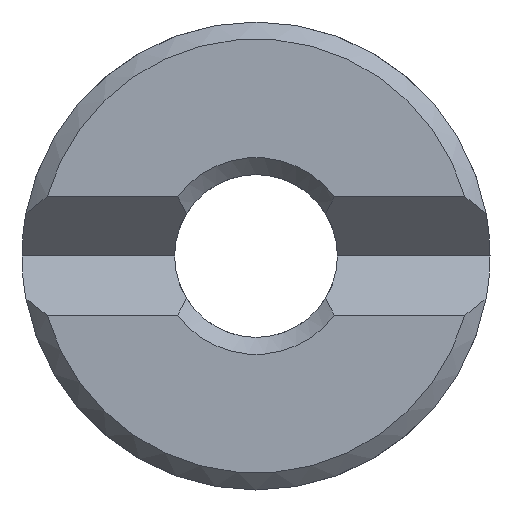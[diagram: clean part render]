
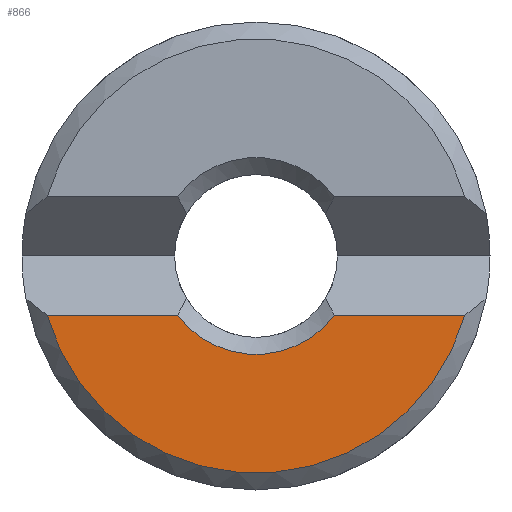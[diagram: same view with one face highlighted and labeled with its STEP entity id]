
A CAD part, left-side view. The second image highlights one B-rep face of the part: STEP entity #866.
In plain terms, the highlighted planar face has unit normal (-1, 0, 0).
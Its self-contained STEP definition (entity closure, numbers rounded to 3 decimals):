
#48 = PLANE('',#49);
#49 = AXIS2_PLACEMENT_3D('',#50,#51,#52);
#50 = CARTESIAN_POINT('',(4.,-26.775,28.35));
#51 = DIRECTION('',(0.707,0.,-0.707));
#52 = DIRECTION('',(0.707,0.,0.707));
#228 = PLANE('',#229);
#229 = AXIS2_PLACEMENT_3D('',#230,#231,#232);
#230 = CARTESIAN_POINT('',(4.,-26.775,28.35));
#231 = DIRECTION('',(0.707,0.,-0.707));
#232 = DIRECTION('',(0.707,0.,0.707));
#255 = CONICAL_SURFACE('',#256,6.9,0.785);
#256 = AXIS2_PLACEMENT_3D('',#257,#258,#259);
#257 = CARTESIAN_POINT('',(4.5,0.,30.1));
#258 = DIRECTION('',(1.,0.,0.));
#259 = DIRECTION('',(0.,0.967,-0.254)
  );
#272 = VERTEX_POINT('',#273);
#273 = CARTESIAN_POINT('',(4.,-6.156,28.35));
#298 = EDGE_CURVE('',#272,#299,#301,.T.);
#299 = VERTEX_POINT('',#300);
#300 = CARTESIAN_POINT('',(4.,-2.312,28.35));
#301 = SURFACE_CURVE('',#302,(#306,#313),.PCURVE_S1.);
#302 = LINE('',#303,#304);
#303 = CARTESIAN_POINT('',(4.,-26.775,28.35));
#304 = VECTOR('',#305,1.);
#305 = DIRECTION('',(0.,1.,0.));
#306 = PCURVE('',#48,#307);
#307 = DEFINITIONAL_REPRESENTATION('',(#308),#312);
#308 = LINE('',#309,#310);
#309 = CARTESIAN_POINT('',(0.,0.));
#310 = VECTOR('',#311,1.);
#311 = DIRECTION('',(0.,-1.));
#312 = ( GEOMETRIC_REPRESENTATION_CONTEXT(2) 
PARAMETRIC_REPRESENTATION_CONTEXT() REPRESENTATION_CONTEXT('2D SPACE',''
  ) );
#313 = PCURVE('',#314,#319);
#314 = PLANE('',#315);
#315 = AXIS2_PLACEMENT_3D('',#316,#317,#318);
#316 = CARTESIAN_POINT('',(4.,0.,30.1));
#317 = DIRECTION('',(1.,0.,0.));
#318 = DIRECTION('',(0.,1.,0.));
#319 = DEFINITIONAL_REPRESENTATION('',(#320),#324);
#320 = LINE('',#321,#322);
#321 = CARTESIAN_POINT('',(-26.775,-1.75));
#322 = VECTOR('',#323,1.);
#323 = DIRECTION('',(1.,0.));
#324 = ( GEOMETRIC_REPRESENTATION_CONTEXT(2) 
PARAMETRIC_REPRESENTATION_CONTEXT() REPRESENTATION_CONTEXT('2D SPACE',''
  ) );
#343 = CONICAL_SURFACE('',#344,2.4,0.785);
#344 = AXIS2_PLACEMENT_3D('',#345,#346,#347);
#345 = CARTESIAN_POINT('',(4.5,0.,30.1));
#346 = DIRECTION('',(-1.,0.,0.));
#347 = DIRECTION('',(0.,0.684,-0.729)
  );
#416 = VERTEX_POINT('',#417);
#417 = CARTESIAN_POINT('',(4.,6.156,28.35));
#444 = EDGE_CURVE('',#416,#272,#445,.T.);
#445 = SURFACE_CURVE('',#446,(#451,#458),.PCURVE_S1.);
#446 = CIRCLE('',#447,6.4);
#447 = AXIS2_PLACEMENT_3D('',#448,#449,#450);
#448 = CARTESIAN_POINT('',(4.,0.,30.1));
#449 = DIRECTION('',(-1.,0.,0.));
#450 = DIRECTION('',(0.,0.967,-0.254)
  );
#451 = PCURVE('',#255,#452);
#452 = DEFINITIONAL_REPRESENTATION('',(#453),#457);
#453 = LINE('',#454,#455);
#454 = CARTESIAN_POINT('',(-0.,-0.5));
#455 = VECTOR('',#456,1.);
#456 = DIRECTION('',(-1.,-0.));
#457 = ( GEOMETRIC_REPRESENTATION_CONTEXT(2) 
PARAMETRIC_REPRESENTATION_CONTEXT() REPRESENTATION_CONTEXT('2D SPACE',''
  ) );
#458 = PCURVE('',#314,#459);
#459 = DEFINITIONAL_REPRESENTATION('',(#460),#468);
#460 = ( BOUNDED_CURVE() B_SPLINE_CURVE(2,(#461,#462,#463,#464,#465,#466
,#467),.UNSPECIFIED.,.T.,.F.) B_SPLINE_CURVE_WITH_KNOTS((1,2,2,2,2,1),(
    -2.094,0.,2.094,4.189,6.283,
8.378),.UNSPECIFIED.) CURVE() GEOMETRIC_REPRESENTATION_ITEM() 
RATIONAL_B_SPLINE_CURVE((1.,0.5,1.,0.5,1.,0.5,1.)) REPRESENTATION_ITEM(
  '') );
#461 = CARTESIAN_POINT('',(6.191,-1.623));
#462 = CARTESIAN_POINT('',(3.379,-12.346));
#463 = CARTESIAN_POINT('',(-4.501,-4.55));
#464 = CARTESIAN_POINT('',(-12.381,3.246));
#465 = CARTESIAN_POINT('',(-1.69,6.173));
#466 = CARTESIAN_POINT('',(9.002,9.099));
#467 = CARTESIAN_POINT('',(6.191,-1.623));
#468 = ( GEOMETRIC_REPRESENTATION_CONTEXT(2) 
PARAMETRIC_REPRESENTATION_CONTEXT() REPRESENTATION_CONTEXT('2D SPACE',''
  ) );
#504 = VERTEX_POINT('',#505);
#505 = CARTESIAN_POINT('',(4.,2.312,28.35));
#530 = EDGE_CURVE('',#504,#416,#531,.T.);
#531 = SURFACE_CURVE('',#532,(#536,#543),.PCURVE_S1.);
#532 = LINE('',#533,#534);
#533 = CARTESIAN_POINT('',(4.,-26.775,28.35));
#534 = VECTOR('',#535,1.);
#535 = DIRECTION('',(0.,1.,0.));
#536 = PCURVE('',#228,#537);
#537 = DEFINITIONAL_REPRESENTATION('',(#538),#542);
#538 = LINE('',#539,#540);
#539 = CARTESIAN_POINT('',(0.,0.));
#540 = VECTOR('',#541,1.);
#541 = DIRECTION('',(0.,-1.));
#542 = ( GEOMETRIC_REPRESENTATION_CONTEXT(2) 
PARAMETRIC_REPRESENTATION_CONTEXT() REPRESENTATION_CONTEXT('2D SPACE',''
  ) );
#543 = PCURVE('',#314,#544);
#544 = DEFINITIONAL_REPRESENTATION('',(#545),#549);
#545 = LINE('',#546,#547);
#546 = CARTESIAN_POINT('',(-26.775,-1.75));
#547 = VECTOR('',#548,1.);
#548 = DIRECTION('',(1.,0.));
#549 = ( GEOMETRIC_REPRESENTATION_CONTEXT(2) 
PARAMETRIC_REPRESENTATION_CONTEXT() REPRESENTATION_CONTEXT('2D SPACE',''
  ) );
#866 = ADVANCED_FACE('',(#867),#314,.F.);
#867 = FACE_BOUND('',#868,.F.);
#868 = EDGE_LOOP('',(#869,#870,#871,#872));
#869 = ORIENTED_EDGE('',*,*,#298,.F.);
#870 = ORIENTED_EDGE('',*,*,#444,.F.);
#871 = ORIENTED_EDGE('',*,*,#530,.F.);
#872 = ORIENTED_EDGE('',*,*,#873,.T.);
#873 = EDGE_CURVE('',#504,#299,#874,.T.);
#874 = SURFACE_CURVE('',#875,(#880,#891),.PCURVE_S1.);
#875 = CIRCLE('',#876,2.9);
#876 = AXIS2_PLACEMENT_3D('',#877,#878,#879);
#877 = CARTESIAN_POINT('',(4.,0.,30.1));
#878 = DIRECTION('',(-1.,0.,0.));
#879 = DIRECTION('',(0.,0.684,-0.729)
  );
#880 = PCURVE('',#314,#881);
#881 = DEFINITIONAL_REPRESENTATION('',(#882),#890);
#882 = ( BOUNDED_CURVE() B_SPLINE_CURVE(2,(#883,#884,#885,#886,#887,#888
,#889),.UNSPECIFIED.,.T.,.F.) B_SPLINE_CURVE_WITH_KNOTS((1,2,2,2,2,1),(
    -2.094,0.,2.094,4.189,6.283,
8.378),.UNSPECIFIED.) CURVE() GEOMETRIC_REPRESENTATION_ITEM() 
RATIONAL_B_SPLINE_CURVE((1.,0.5,1.,0.5,1.,0.5,1.)) REPRESENTATION_ITEM(
  '') );
#883 = CARTESIAN_POINT('',(1.985,-2.115));
#884 = CARTESIAN_POINT('',(-1.678,-5.552));
#885 = CARTESIAN_POINT('',(-2.824,-0.661));
#886 = CARTESIAN_POINT('',(-3.969,4.229));
#887 = CARTESIAN_POINT('',(0.839,2.776));
#888 = CARTESIAN_POINT('',(5.647,1.323));
#889 = CARTESIAN_POINT('',(1.985,-2.115));
#890 = ( GEOMETRIC_REPRESENTATION_CONTEXT(2) 
PARAMETRIC_REPRESENTATION_CONTEXT() REPRESENTATION_CONTEXT('2D SPACE',''
  ) );
#891 = PCURVE('',#343,#892);
#892 = DEFINITIONAL_REPRESENTATION('',(#893),#897);
#893 = LINE('',#894,#895);
#894 = CARTESIAN_POINT('',(-0.,0.5));
#895 = VECTOR('',#896,1.);
#896 = DIRECTION('',(1.,-0.));
#897 = ( GEOMETRIC_REPRESENTATION_CONTEXT(2) 
PARAMETRIC_REPRESENTATION_CONTEXT() REPRESENTATION_CONTEXT('2D SPACE',''
  ) );
